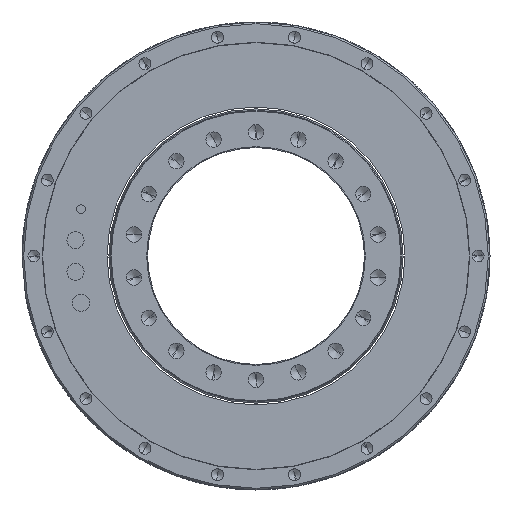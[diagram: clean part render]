
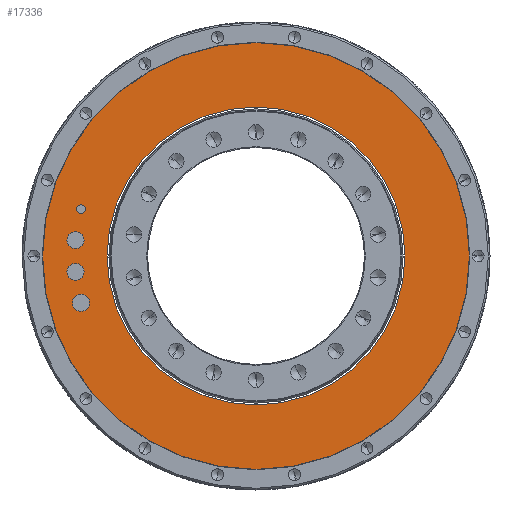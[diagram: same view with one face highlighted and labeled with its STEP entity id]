
A CAD part, left-side view. The second image highlights one B-rep face of the part: STEP entity #17336.
In plain terms, the highlighted planar face has unit normal (-1, 0, 0).
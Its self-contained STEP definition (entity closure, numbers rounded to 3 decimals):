
#16915=CARTESIAN_POINT('',(-220.,0.,0.));
#16916=DIRECTION('',(-1.,0.,0.));
#16917=DIRECTION('',(0.,1.,0.));
#16918=AXIS2_PLACEMENT_3D('',#16915,#16916,#16917);
#16920=CARTESIAN_POINT('',(-220.,0.,0.));
#16921=DIRECTION('',(1.,0.,0.));
#16922=DIRECTION('',(0.,1.,0.));
#16923=AXIS2_PLACEMENT_3D('',#16920,#16921,#16922);
#16925=CARTESIAN_POINT('',(-220.,0.,0.));
#16926=DIRECTION('',(-1.,0.,0.));
#16927=DIRECTION('',(0.,1.,0.));
#16928=AXIS2_PLACEMENT_3D('',#16925,#16926,#16927);
#16930=CARTESIAN_POINT('',(-220.,0.,0.));
#16931=DIRECTION('',(1.,0.,0.));
#16932=DIRECTION('',(0.,1.,0.));
#16933=AXIS2_PLACEMENT_3D('',#16930,#16931,#16932);
#16935=CARTESIAN_POINT('',(-220.,102.461,-27.454));
#16936=DIRECTION('',(-1.,0.,0.));
#16937=DIRECTION('',(0.,0.,1.));
#16938=AXIS2_PLACEMENT_3D('',#16935,#16936,#16937);
#16940=CARTESIAN_POINT('',(-220.,102.461,-27.454));
#16941=DIRECTION('',(-1.,0.,0.));
#16942=DIRECTION('',(0.,0.,-1.));
#16943=AXIS2_PLACEMENT_3D('',#16940,#16941,#16942);
#16945=CARTESIAN_POINT('',(-220.,102.461,27.454));
#16946=DIRECTION('',(-1.,0.,0.));
#16947=DIRECTION('',(0.,0.,1.));
#16948=AXIS2_PLACEMENT_3D('',#16945,#16946,#16947);
#16950=CARTESIAN_POINT('',(-220.,102.461,27.454));
#16951=DIRECTION('',(-1.,0.,0.));
#16952=DIRECTION('',(0.,0.,-1.));
#16953=AXIS2_PLACEMENT_3D('',#16950,#16951,#16952);
#16955=CARTESIAN_POINT('',(-220.,105.671,9.245));
#16956=DIRECTION('',(-1.,0.,0.));
#16957=DIRECTION('',(0.,0.,1.));
#16958=AXIS2_PLACEMENT_3D('',#16955,#16956,#16957);
#16960=CARTESIAN_POINT('',(-220.,105.671,9.245));
#16961=DIRECTION('',(-1.,0.,0.));
#16962=DIRECTION('',(0.,0.,-1.));
#16963=AXIS2_PLACEMENT_3D('',#16960,#16961,#16962);
#16965=CARTESIAN_POINT('',(-220.,105.671,-9.245));
#16966=DIRECTION('',(-1.,0.,0.));
#16967=DIRECTION('',(0.,0.,1.));
#16968=AXIS2_PLACEMENT_3D('',#16965,#16966,#16967);
#16970=CARTESIAN_POINT('',(-220.,105.671,-9.245));
#16971=DIRECTION('',(-1.,0.,0.));
#16972=DIRECTION('',(0.,0.,-1.));
#16973=AXIS2_PLACEMENT_3D('',#16970,#16971,#16972);
#17124=CARTESIAN_POINT('',(-220.,124.95,0.));
#17126=VERTEX_POINT('',#17124);
#17127=CARTESIAN_POINT('',(-220.,87.2,0.));
#17129=VERTEX_POINT('',#17127);
#17144=CARTESIAN_POINT('',(-220.,-124.95,0.));
#17146=VERTEX_POINT('',#17144);
#17147=CARTESIAN_POINT('',(-220.,-87.2,0.));
#17149=VERTEX_POINT('',#17147);
#17179=CARTESIAN_POINT('',(-220.,102.461,-22.454));
#17180=CARTESIAN_POINT('',(-220.,102.461,-32.454));
#17181=VERTEX_POINT('',#17179);
#17182=VERTEX_POINT('',#17180);
#17183=CARTESIAN_POINT('',(-220.,102.461,29.954));
#17184=CARTESIAN_POINT('',(-220.,102.461,24.954));
#17185=VERTEX_POINT('',#17183);
#17186=VERTEX_POINT('',#17184);
#17187=CARTESIAN_POINT('',(-220.,105.671,14.245));
#17188=CARTESIAN_POINT('',(-220.,105.671,4.245));
#17189=VERTEX_POINT('',#17187);
#17190=VERTEX_POINT('',#17188);
#17191=CARTESIAN_POINT('',(-220.,105.671,-4.245));
#17192=CARTESIAN_POINT('',(-220.,105.671,-14.245));
#17193=VERTEX_POINT('',#17191);
#17194=VERTEX_POINT('',#17192);
#17297=CARTESIAN_POINT('',(-220.,0.,0.));
#17298=DIRECTION('',(1.,0.,0.));
#17299=DIRECTION('',(0.,-1.,0.));
#17300=AXIS2_PLACEMENT_3D('',#17297,#17298,#17299);
#17301=PLANE('',#17300);
#17303=ORIENTED_EDGE('',*,*,#17302,.F.);
#17305=ORIENTED_EDGE('',*,*,#17304,.T.);
#17306=EDGE_LOOP('',(#17303,#17305));
#17307=FACE_OUTER_BOUND('',#17306,.F.);
#17308=ORIENTED_EDGE('',*,*,#17290,.F.);
#17309=ORIENTED_EDGE('',*,*,#17279,.T.);
#17310=EDGE_LOOP('',(#17308,#17309));
#17311=FACE_BOUND('',#17310,.F.);
#17313=ORIENTED_EDGE('',*,*,#17312,.T.);
#17315=ORIENTED_EDGE('',*,*,#17314,.T.);
#17316=EDGE_LOOP('',(#17313,#17315));
#17317=FACE_BOUND('',#17316,.F.);
#17319=ORIENTED_EDGE('',*,*,#17318,.T.);
#17321=ORIENTED_EDGE('',*,*,#17320,.T.);
#17322=EDGE_LOOP('',(#17319,#17321));
#17323=FACE_BOUND('',#17322,.F.);
#17325=ORIENTED_EDGE('',*,*,#17324,.T.);
#17327=ORIENTED_EDGE('',*,*,#17326,.T.);
#17328=EDGE_LOOP('',(#17325,#17327));
#17329=FACE_BOUND('',#17328,.F.);
#17331=ORIENTED_EDGE('',*,*,#17330,.T.);
#17333=ORIENTED_EDGE('',*,*,#17332,.T.);
#17334=EDGE_LOOP('',(#17331,#17333));
#17335=FACE_BOUND('',#17334,.F.);
#17336=ADVANCED_FACE('',(#17307,#17311,#17317,#17323,#17329,#17335),#17301,.F.);
#16919=CIRCLE('',#16918,87.2);
#16924=CIRCLE('',#16923,87.2);
#16929=CIRCLE('',#16928,124.95);
#16934=CIRCLE('',#16933,124.95);
#16939=CIRCLE('',#16938,5.);
#16944=CIRCLE('',#16943,5.);
#16949=CIRCLE('',#16948,2.5);
#16954=CIRCLE('',#16953,2.5);
#16959=CIRCLE('',#16958,5.);
#16964=CIRCLE('',#16963,5.);
#16969=CIRCLE('',#16968,5.);
#16974=CIRCLE('',#16973,5.);
#17279=EDGE_CURVE('',#17129,#17149,#16919,.T.);
#17290=EDGE_CURVE('',#17129,#17149,#16924,.T.);
#17302=EDGE_CURVE('',#17126,#17146,#16929,.T.);
#17304=EDGE_CURVE('',#17126,#17146,#16934,.T.);
#17312=EDGE_CURVE('',#17181,#17182,#16939,.T.);
#17314=EDGE_CURVE('',#17182,#17181,#16944,.T.);
#17318=EDGE_CURVE('',#17185,#17186,#16949,.T.);
#17320=EDGE_CURVE('',#17186,#17185,#16954,.T.);
#17324=EDGE_CURVE('',#17189,#17190,#16959,.T.);
#17326=EDGE_CURVE('',#17190,#17189,#16964,.T.);
#17330=EDGE_CURVE('',#17193,#17194,#16969,.T.);
#17332=EDGE_CURVE('',#17194,#17193,#16974,.T.);
